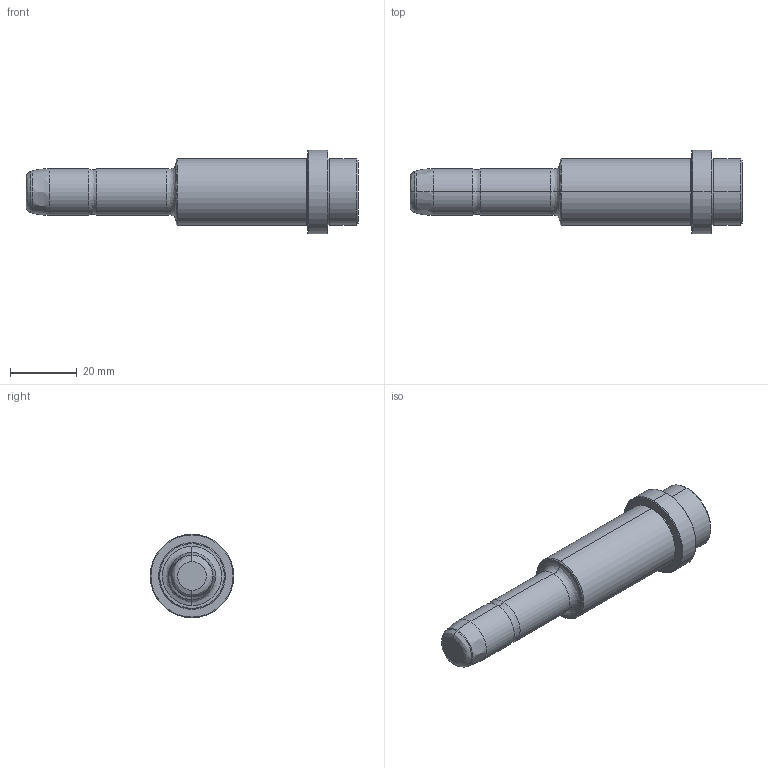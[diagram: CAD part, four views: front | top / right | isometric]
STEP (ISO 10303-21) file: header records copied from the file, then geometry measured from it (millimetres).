
FILE_DESCRIPTION (( 'STEP AP203' ), '1' );
FILE_NAME ('015 Colonne de Guidage.STEP', '2021-10-27T18:23:06', ( '' ), ( '' ), 'SwSTEP 2.0', 'SolidWorks 2019', '' );
FILE_SCHEMA (( 'CONFIG_CONTROL_DESIGN' ));
Length unit declared in the file: millimetre
Products named in the file (1): 015 Colonne de Guidage
Bounding box: 99.5 x 25 x 25 mm (x, y, z)
Volume: 24942.7 mm3; surface area: 6374.3 mm2
Topology: 1 solids, 1 shells, 39 faces, 88 edges, 56 vertices
Faces by surface type: bspline 18, cylinder 14, plane 7
Entity records: 1317 total; most frequent: CARTESIAN_POINT 374, DIRECTION 196, ORIENTED_EDGE 176, EDGE_CURVE 88, AXIS2_PLACEMENT_3D 86, CIRCLE 64, VERTEX_POINT 56, EDGE_LOOP 44
